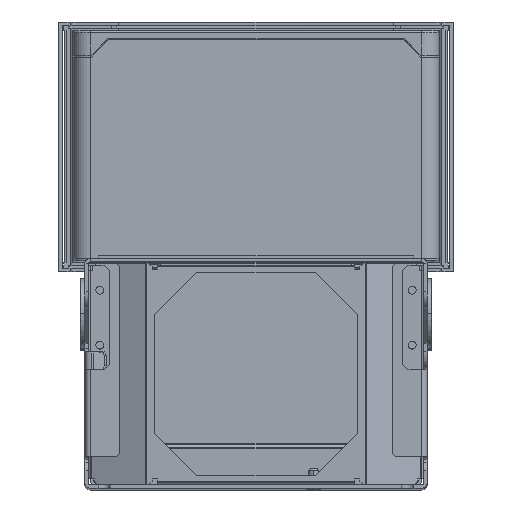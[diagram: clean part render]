
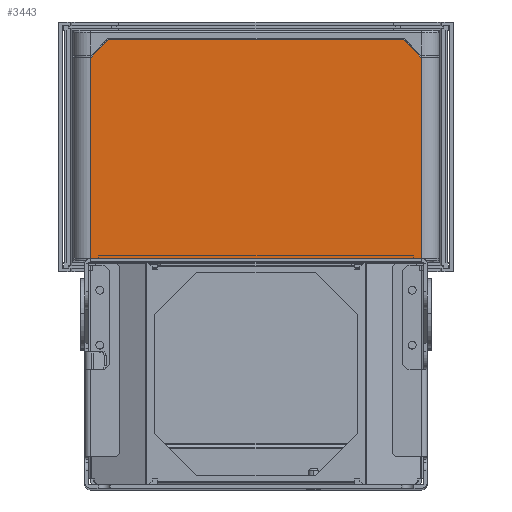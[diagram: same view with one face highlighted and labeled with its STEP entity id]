
A CAD part, top view. The second image highlights one B-rep face of the part: STEP entity #3443.
In plain terms, the highlighted planar face has unit normal (0, 0, 1).
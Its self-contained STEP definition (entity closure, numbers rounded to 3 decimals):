
#3443=ADVANCED_FACE('',(#10257),#10258,.T.);
#10257=FACE_OUTER_BOUND('',#19178,.T.);
#10258=PLANE('',#19179);
#19178=EDGE_LOOP('',(#46382,#46383,#46384,#46385,#46386,#46387,#46388,#46389));
#19179=AXIS2_PLACEMENT_3D('',#46390,#46391,#46392);
#46382=ORIENTED_EDGE('',*,*,#56613,.F.);
#46383=ORIENTED_EDGE('',*,*,#56614,.F.);
#46384=ORIENTED_EDGE('',*,*,#56615,.T.);
#46385=ORIENTED_EDGE('',*,*,#56411,.T.);
#46386=ORIENTED_EDGE('',*,*,#56612,.F.);
#46387=ORIENTED_EDGE('',*,*,#56605,.T.);
#46388=ORIENTED_EDGE('',*,*,#56616,.F.);
#46389=ORIENTED_EDGE('',*,*,#56617,.F.);
#46390=CARTESIAN_POINT('',(-105.0,131.5,66.0));
#46391=DIRECTION('',(0.0,0.0,1.0));
#46392=DIRECTION('',(1.0,0.0,0.0));
#56411=EDGE_CURVE('',#71047,#71045,#71048,.T.);
#56605=EDGE_CURVE('',#71380,#71378,#71381,.T.);
#56612=EDGE_CURVE('',#71380,#71045,#71392,.T.);
#56613=EDGE_CURVE('',#71393,#71394,#71395,.T.);
#56614=EDGE_CURVE('',#71396,#71393,#71397,.T.);
#56615=EDGE_CURVE('',#71396,#71047,#71398,.T.);
#56616=EDGE_CURVE('',#71399,#71378,#71400,.T.);
#56617=EDGE_CURVE('',#71394,#71399,#71401,.T.);
#71045=VERTEX_POINT('',#94265);
#71047=VERTEX_POINT('',#94267);
#71048=LINE('',#94268,#94269);
#71378=VERTEX_POINT('',#94759);
#71380=VERTEX_POINT('',#94762);
#71381=LINE('',#94763,#94764);
#71392=LINE('',#94778,#94779);
#71393=VERTEX_POINT('',#94780);
#71394=VERTEX_POINT('',#94781);
#71395=LINE('',#94782,#94783);
#71396=VERTEX_POINT('',#94784);
#71397=LINE('',#94785,#94786);
#71398=LINE('',#94787,#94788);
#71399=VERTEX_POINT('',#94789);
#71400=LINE('',#94790,#94791);
#71401=LINE('',#94792,#94793);
#94265=CARTESIAN_POINT('',(95.0,131.5,66.0));
#94267=CARTESIAN_POINT('',(-95.0,131.5,66.0));
#94268=CARTESIAN_POINT('',(-95.0,131.5,66.0));
#94269=VECTOR('',#107590,190.0);
#94759=CARTESIAN_POINT('',(94.5,246.85,66.0));
#94762=CARTESIAN_POINT('',(95.0,246.85,66.0));
#94763=CARTESIAN_POINT('',(95.0,246.85,66.0));
#94764=VECTOR('',#107848,0.5);
#94778=CARTESIAN_POINT('',(95.0,246.85,66.0));
#94779=VECTOR('',#107861,115.35);
#94780=CARTESIAN_POINT('',(-94.5,246.85,66.0));
#94781=CARTESIAN_POINT('',(-84.5,256.85,66.0));
#94782=CARTESIAN_POINT('',(-94.5,246.85,66.0));
#94783=VECTOR('',#107862,14.142);
#94784=CARTESIAN_POINT('',(-95.0,246.85,66.0));
#94785=CARTESIAN_POINT('',(-95.0,246.85,66.0));
#94786=VECTOR('',#107863,0.5);
#94787=CARTESIAN_POINT('',(-95.0,246.85,66.0));
#94788=VECTOR('',#107864,115.35);
#94789=CARTESIAN_POINT('',(84.5,256.85,66.0));
#94790=CARTESIAN_POINT('',(84.5,256.85,66.0));
#94791=VECTOR('',#107865,14.142);
#94792=CARTESIAN_POINT('',(-84.5,256.85,66.0));
#94793=VECTOR('',#107866,169.0);
#107590=DIRECTION('',(1.0,0.0,0.0));
#107848=DIRECTION('',(-1.0,0.0,0.0));
#107861=DIRECTION('',(0.0,-1.0,0.0));
#107862=DIRECTION('',(0.707,0.707,0.0));
#107863=DIRECTION('',(1.0,0.0,0.0));
#107864=DIRECTION('',(0.0,-1.0,0.0));
#107865=DIRECTION('',(0.707,-0.707,0.0));
#107866=DIRECTION('',(1.0,0.0,0.0));
